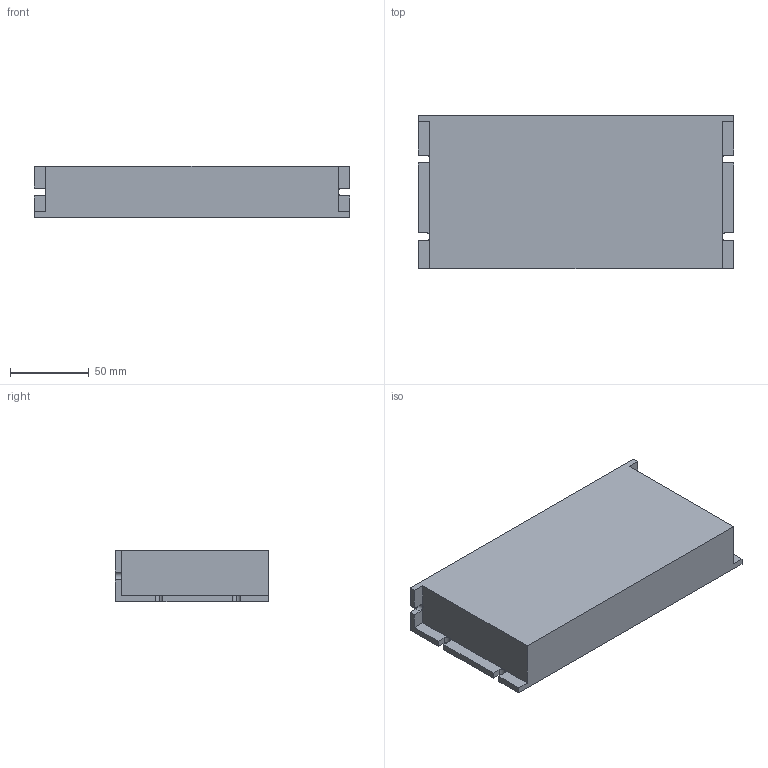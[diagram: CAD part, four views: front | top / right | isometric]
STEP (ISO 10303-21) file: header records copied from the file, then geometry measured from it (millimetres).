
FILE_DESCRIPTION (( 'STEP AP214' ), '1' );
FILE_NAME ('DRV1500.STEP', '2021-08-16T08:37:28', ( '微软用户' ), ( '微软中国' ), 'SwSTEP 2.0', 'SolidWorks 2020', '' );
FILE_SCHEMA (( 'AUTOMOTIVE_DESIGN' ));
Length unit declared in the file: millimetre
Products named in the file (1): DRV1500
Bounding box: 201 x 98 x 33 mm (x, y, z)
Volume: 608283.8 mm3; surface area: 59022.4 mm2
Topology: 1 solids, 1 shells, 50 faces, 132 edges, 84 vertices
Faces by surface type: plane 42, cylinder 8
Entity records: 1562 total; most frequent: CARTESIAN_POINT 267, ORIENTED_EDGE 264, DIRECTION 262, EDGE_CURVE 132, LINE 104, VECTOR 104, VERTEX_POINT 84, AXIS2_PLACEMENT_3D 79
